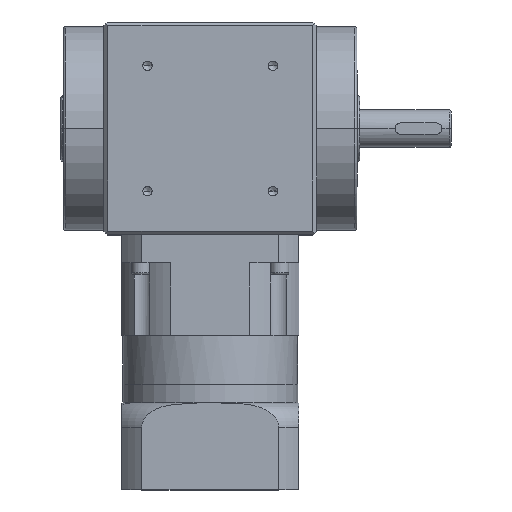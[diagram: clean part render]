
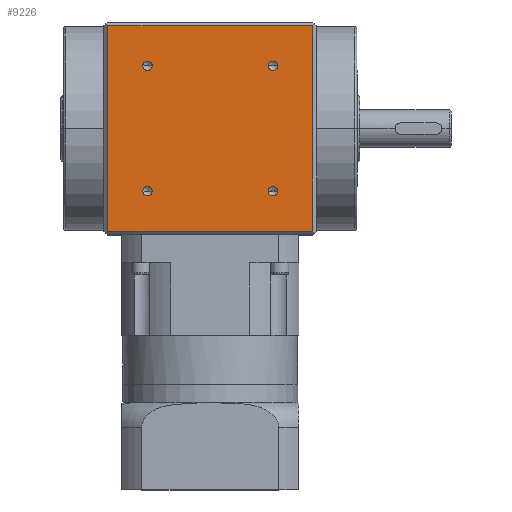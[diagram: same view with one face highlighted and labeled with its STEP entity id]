
A CAD part, top view. The second image highlights one B-rep face of the part: STEP entity #9226.
In plain terms, the highlighted planar face has unit normal (0, 0, 1).
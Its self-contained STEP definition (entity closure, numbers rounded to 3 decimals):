
#382 = DIRECTION ( 'NONE',  ( 0., 0., 1. ) ) ;
#584 = CARTESIAN_POINT ( 'NONE',  ( -54.844, 248.1, 57. ) ) ;
#746 = EDGE_CURVE ( 'NONE', #14280, #11014, #9756, .T. ) ;
#794 = ORIENTED_EDGE ( 'NONE', *, *, #17158, .F. ) ;
#1116 = ORIENTED_EDGE ( 'NONE', *, *, #19699, .F. ) ;
#1427 = FACE_BOUND ( 'NONE', #6032, .T. ) ;
#1696 = VECTOR ( 'NONE', #18176, 1000. ) ;
#1840 = CARTESIAN_POINT ( 'NONE',  ( 33.588, 159.512, 57. ) ) ;
#1902 = EDGE_CURVE ( 'NONE', #8581, #15536, #14584, .T. ) ;
#2006 = VERTEX_POINT ( 'NONE', #17133 ) ;
#2374 = DIRECTION ( 'NONE',  ( 0., 0., 1. ) ) ;
#2406 = CARTESIAN_POINT ( 'NONE',  ( -33.588, 159.512, 57. ) ) ;
#2524 = VERTEX_POINT ( 'NONE', #13894 ) ;
#2622 = CARTESIAN_POINT ( 'NONE',  ( -33.588, 229.188, 57. ) ) ;
#2745 = EDGE_CURVE ( 'NONE', #7527, #14491, #19749, .T. ) ;
#2922 = ORIENTED_EDGE ( 'NONE', *, *, #19151, .F. ) ;
#2968 = CARTESIAN_POINT ( 'NONE',  ( 33.588, 159.512, 57. ) ) ;
#3409 = AXIS2_PLACEMENT_3D ( 'NONE', #1840, #12975, #3428 ) ;
#3428 = DIRECTION ( 'NONE',  ( 0., -1., 0. ) ) ;
#3521 = ORIENTED_EDGE ( 'NONE', *, *, #19645, .F. ) ;
#3704 = VERTEX_POINT ( 'NONE', #16870 ) ;
#4029 = DIRECTION ( 'NONE',  ( 0., -1., 0. ) ) ;
#4232 = VECTOR ( 'NONE', #19649, 1000. ) ;
#4302 = LINE ( 'NONE', #15578, #15975 ) ;
#4610 = DIRECTION ( 'NONE',  ( 0., -1., 0. ) ) ;
#4674 = EDGE_LOOP ( 'NONE', ( #3521, #6195 ) ) ;
#4684 = FACE_BOUND ( 'NONE', #15217, .T. ) ;
#4980 = ORIENTED_EDGE ( 'NONE', *, *, #14897, .F. ) ;
#5117 = CARTESIAN_POINT ( 'NONE',  ( -33.588, 226.688, 57. ) ) ;
#5129 = LINE ( 'NONE', #7625, #8869 ) ;
#5381 = CIRCLE ( 'NONE', #15673, 2.5 ) ;
#5408 = CARTESIAN_POINT ( 'NONE',  ( 33.588, 226.688, 57. ) ) ;
#5447 = CARTESIAN_POINT ( 'NONE',  ( 54.844, 0., 57. ) ) ;
#5478 = CARTESIAN_POINT ( 'NONE',  ( 33.588, 229.188, 57. ) ) ;
#5559 = AXIS2_PLACEMENT_3D ( 'NONE', #5117, #16244, #6702 ) ;
#5563 = PLANE ( 'NONE',  #9858 ) ;
#5873 = ORIENTED_EDGE ( 'NONE', *, *, #9944, .F. ) ;
#5963 = DIRECTION ( 'NONE',  ( -1., 0., 0. ) ) ;
#6032 = EDGE_LOOP ( 'NONE', ( #6268, #1116 ) ) ;
#6119 = EDGE_CURVE ( 'NONE', #2524, #3704, #4302, .T. ) ;
#6195 = ORIENTED_EDGE ( 'NONE', *, *, #2745, .F. ) ;
#6268 = ORIENTED_EDGE ( 'NONE', *, *, #19683, .F. ) ;
#6302 = VERTEX_POINT ( 'NONE', #2622 ) ;
#6520 = EDGE_LOOP ( 'NONE', ( #16475, #5873, #794, #15102 ) ) ;
#6601 = VERTEX_POINT ( 'NONE', #584 ) ;
#6637 = AXIS2_PLACEMENT_3D ( 'NONE', #9923, #382, #11520 ) ;
#6702 = DIRECTION ( 'NONE',  ( 0., -1., 0. ) ) ;
#7019 = DIRECTION ( 'NONE',  ( 0., -1., 0. ) ) ;
#7486 = CARTESIAN_POINT ( 'NONE',  ( 33.588, 162.012, 57. ) ) ;
#7527 = VERTEX_POINT ( 'NONE', #7486 ) ;
#7528 = ORIENTED_EDGE ( 'NONE', *, *, #1902, .F. ) ;
#7625 = CARTESIAN_POINT ( 'NONE',  ( -60., 248.1, 57. ) ) ;
#7956 = LINE ( 'NONE', #8578, #4232 ) ;
#8282 = ORIENTED_EDGE ( 'NONE', *, *, #746, .F. ) ;
#8287 = DIRECTION ( 'NONE',  ( 0., -1., 0. ) ) ;
#8578 = CARTESIAN_POINT ( 'NONE',  ( -54.844, 0., 57. ) ) ;
#8581 = VERTEX_POINT ( 'NONE', #18423 ) ;
#8843 = CARTESIAN_POINT ( 'NONE',  ( -60., 250.1, 57. ) ) ;
#8869 = VECTOR ( 'NONE', #15562, 1000. ) ;
#8878 = CARTESIAN_POINT ( 'NONE',  ( -33.588, 159.512, 57. ) ) ;
#8909 = FACE_BOUND ( 'NONE', #4674, .T. ) ;
#9226 = ADVANCED_FACE ( 'NONE', ( #1427, #13628, #8909, #4684, #18348 ), #5563, .F. ) ;
#9382 = CIRCLE ( 'NONE', #5559, 2.5 ) ;
#9653 = CARTESIAN_POINT ( 'NONE',  ( 54.844, 248.1, 57. ) ) ;
#9756 = CIRCLE ( 'NONE', #10101, 2.5 ) ;
#9858 = AXIS2_PLACEMENT_3D ( 'NONE', #8843, #19926, #10416 ) ;
#9923 = CARTESIAN_POINT ( 'NONE',  ( -33.588, 226.688, 57. ) ) ;
#9944 = EDGE_CURVE ( 'NONE', #6601, #16158, #5129, .T. ) ;
#10101 = AXIS2_PLACEMENT_3D ( 'NONE', #5408, #16558, #7019 ) ;
#10387 = CARTESIAN_POINT ( 'NONE',  ( 33.588, 226.688, 57. ) ) ;
#10416 = DIRECTION ( 'NONE',  ( 0., 1., 0. ) ) ;
#10463 = DIRECTION ( 'NONE',  ( 0., -1., 0. ) ) ;
#10807 = CARTESIAN_POINT ( 'NONE',  ( -33.588, 162.012, 57. ) ) ;
#11014 = VERTEX_POINT ( 'NONE', #15490 ) ;
#11520 = DIRECTION ( 'NONE',  ( 0., -1., 0. ) ) ;
#11595 = AXIS2_PLACEMENT_3D ( 'NONE', #2406, #13561, #4029 ) ;
#11855 = CIRCLE ( 'NONE', #14018, 2.5 ) ;
#12146 = AXIS2_PLACEMENT_3D ( 'NONE', #2968, #14126, #4610 ) ;
#12610 = CIRCLE ( 'NONE', #3409, 2.5 ) ;
#12975 = DIRECTION ( 'NONE',  ( 0., 0., 1. ) ) ;
#13561 = DIRECTION ( 'NONE',  ( 0., 0., 1. ) ) ;
#13628 = FACE_BOUND ( 'NONE', #17798, .T. ) ;
#13894 = CARTESIAN_POINT ( 'NONE',  ( 54.844, 138.1, 57. ) ) ;
#14018 = AXIS2_PLACEMENT_3D ( 'NONE', #8878, #19974, #10463 ) ;
#14126 = DIRECTION ( 'NONE',  ( 0., 0., 1. ) ) ;
#14280 = VERTEX_POINT ( 'NONE', #5478 ) ;
#14491 = VERTEX_POINT ( 'NONE', #17178 ) ;
#14584 = CIRCLE ( 'NONE', #11595, 2.5 ) ;
#14897 = EDGE_CURVE ( 'NONE', #15536, #8581, #11855, .T. ) ;
#15102 = ORIENTED_EDGE ( 'NONE', *, *, #6119, .F. ) ;
#15217 = EDGE_LOOP ( 'NONE', ( #7528, #4980 ) ) ;
#15490 = CARTESIAN_POINT ( 'NONE',  ( 33.588, 224.188, 57. ) ) ;
#15536 = VERTEX_POINT ( 'NONE', #10807 ) ;
#15562 = DIRECTION ( 'NONE',  ( 1., 0., 0. ) ) ;
#15578 = CARTESIAN_POINT ( 'NONE',  ( -60., 138.1, 57. ) ) ;
#15673 = AXIS2_PLACEMENT_3D ( 'NONE', #10387, #2374, #8287 ) ;
#15834 = CIRCLE ( 'NONE', #6637, 2.5 ) ;
#15975 = VECTOR ( 'NONE', #5963, 1000. ) ;
#16158 = VERTEX_POINT ( 'NONE', #9653 ) ;
#16244 = DIRECTION ( 'NONE',  ( 0., 0., 1. ) ) ;
#16475 = ORIENTED_EDGE ( 'NONE', *, *, #18249, .F. ) ;
#16558 = DIRECTION ( 'NONE',  ( 0., 0., 1. ) ) ;
#16870 = CARTESIAN_POINT ( 'NONE',  ( -54.844, 138.1, 57. ) ) ;
#17133 = CARTESIAN_POINT ( 'NONE',  ( -33.588, 224.188, 57. ) ) ;
#17158 = EDGE_CURVE ( 'NONE', #3704, #6601, #7956, .T. ) ;
#17178 = CARTESIAN_POINT ( 'NONE',  ( 33.588, 157.012, 57. ) ) ;
#17798 = EDGE_LOOP ( 'NONE', ( #2922, #8282 ) ) ;
#18176 = DIRECTION ( 'NONE',  ( 0., -1., 0. ) ) ;
#18249 = EDGE_CURVE ( 'NONE', #16158, #2524, #19108, .T. ) ;
#18348 = FACE_OUTER_BOUND ( 'NONE', #6520, .T. ) ;
#18423 = CARTESIAN_POINT ( 'NONE',  ( -33.588, 157.012, 57. ) ) ;
#19108 = LINE ( 'NONE', #5447, #1696 ) ;
#19151 = EDGE_CURVE ( 'NONE', #11014, #14280, #5381, .T. ) ;
#19645 = EDGE_CURVE ( 'NONE', #14491, #7527, #12610, .T. ) ;
#19649 = DIRECTION ( 'NONE',  ( 0., 1., 0. ) ) ;
#19683 = EDGE_CURVE ( 'NONE', #2006, #6302, #9382, .T. ) ;
#19699 = EDGE_CURVE ( 'NONE', #6302, #2006, #15834, .T. ) ;
#19749 = CIRCLE ( 'NONE', #12146, 2.5 ) ;
#19926 = DIRECTION ( 'NONE',  ( 0., 0., -1. ) ) ;
#19974 = DIRECTION ( 'NONE',  ( 0., 0., 1. ) ) ;
